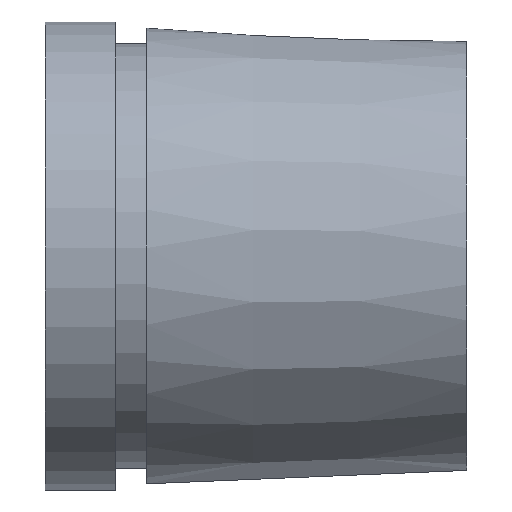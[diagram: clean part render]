
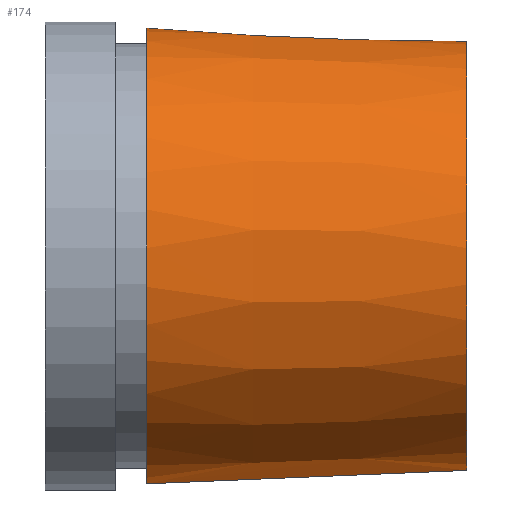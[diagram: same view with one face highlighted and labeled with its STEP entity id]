
A CAD part, top view. The second image highlights one B-rep face of the part: STEP entity #174.
In plain terms, the highlighted conical face has half-angle 2.386 degrees and reference radius 28.354 mm.
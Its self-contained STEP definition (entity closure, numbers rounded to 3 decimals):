
#18=CONICAL_SURFACE('',#209,28.354,0.042);
#19=CIRCLE('',#207,29.208);
#21=CIRCLE('',#210,27.5);
#30=FACE_OUTER_BOUND('',#40,.T.);
#40=EDGE_LOOP('',(#137,#138,#139,#140));
#47=(
BOUNDED_CURVE()
B_SPLINE_CURVE(2,(#286,#287,#288),.UNSPECIFIED.,.F.,.F.)
B_SPLINE_CURVE_WITH_KNOTS((3,3),(0.,4.104),.UNSPECIFIED.)
CURVE()
GEOMETRIC_REPRESENTATION_ITEM()
RATIONAL_B_SPLINE_CURVE((1.,1.,1.))
REPRESENTATION_ITEM('')
);
#48=(
BOUNDED_CURVE()
B_SPLINE_CURVE(2,(#305,#306,#307),.UNSPECIFIED.,.F.,.F.)
B_SPLINE_CURVE_WITH_KNOTS((3,3),(0.,4.104),.UNSPECIFIED.)
CURVE()
GEOMETRIC_REPRESENTATION_ITEM()
RATIONAL_B_SPLINE_CURVE((1.,1.,1.))
REPRESENTATION_ITEM('')
);
#81=VERTEX_POINT('',#283);
#82=VERTEX_POINT('',#285);
#89=VERTEX_POINT('',#302);
#90=VERTEX_POINT('',#304);
#97=EDGE_CURVE('',#82,#81,#47,.T.);
#105=EDGE_CURVE('',#90,#89,#48,.T.);
#109=EDGE_CURVE('',#89,#82,#19,.T.);
#111=EDGE_CURVE('',#90,#81,#21,.T.);
#137=ORIENTED_EDGE('',*,*,#97,.T.);
#138=ORIENTED_EDGE('',*,*,#111,.F.);
#139=ORIENTED_EDGE('',*,*,#105,.T.);
#140=ORIENTED_EDGE('',*,*,#109,.T.);
#174=ADVANCED_FACE('',(#30),#18,.T.);
#207=AXIS2_PLACEMENT_3D('',#314,#244,#245);
#209=AXIS2_PLACEMENT_3D('',#316,#248,#249);
#210=AXIS2_PLACEMENT_3D('',#317,#250,#251);
#244=DIRECTION('center_axis',(1.,0.,0.));
#245=DIRECTION('ref_axis',(0.,0.,-1.));
#248=DIRECTION('center_axis',(-1.,0.,0.));
#249=DIRECTION('ref_axis',(0.,1.,0.));
#250=DIRECTION('center_axis',(1.,0.,0.));
#251=DIRECTION('ref_axis',(0.,0.,-1.));
#283=CARTESIAN_POINT('',(-3.,-27.427,2.));
#285=CARTESIAN_POINT('',(-44.,-29.14,2.));
#286=CARTESIAN_POINT('Ctrl Pts',(-44.,-29.14,2.));
#287=CARTESIAN_POINT('Ctrl Pts',(-22.879,-28.258,2.));
#288=CARTESIAN_POINT('Ctrl Pts',(-3.,-27.427,2.));
#302=CARTESIAN_POINT('',(-44.,-29.14,-2.));
#304=CARTESIAN_POINT('',(-3.,-27.427,-2.));
#305=CARTESIAN_POINT('Ctrl Pts',(-3.,-27.427,-2.));
#306=CARTESIAN_POINT('Ctrl Pts',(-22.879,-28.258,-2.));
#307=CARTESIAN_POINT('Ctrl Pts',(-44.,-29.14,-2.));
#314=CARTESIAN_POINT('Origin',(-44.,0.,0.));
#316=CARTESIAN_POINT('Origin',(-23.5,0.,0.));
#317=CARTESIAN_POINT('Origin',(-3.,0.,0.));
